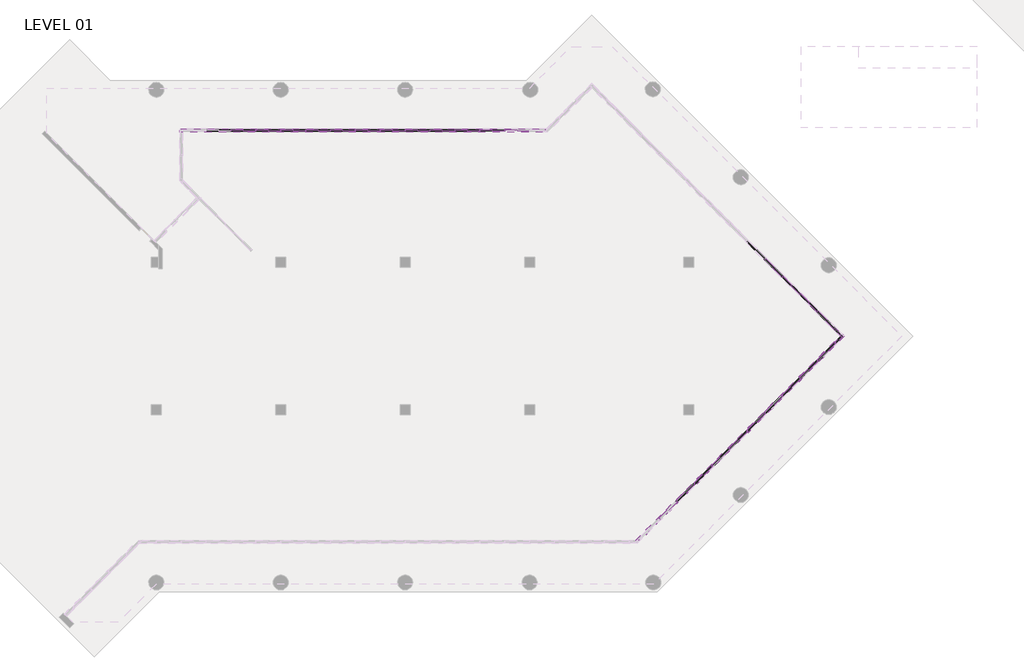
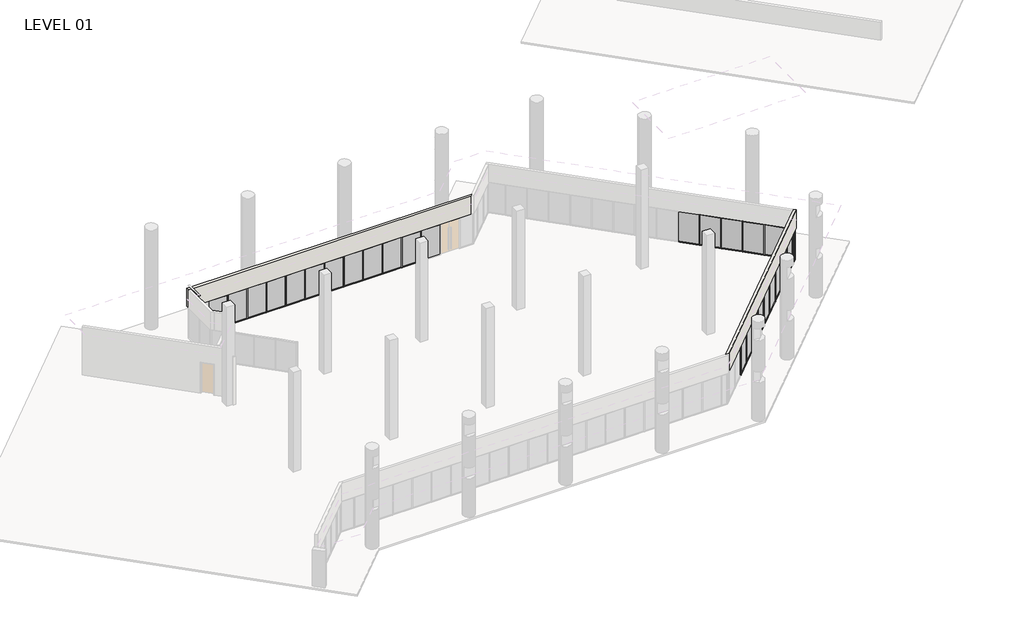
# One storey, part 7 of 24: 83 members, 28 plates, 2 walls.
"""IFC4 building model written with IfcOpenShell, lengths in millimetres."""

from ifc_helpers import new_model, si_unit, origin, place, context, project, spatial, faceted_brep, transform, mapped, element, save
from components import member_5247f267, member_79e7b9d8, member_b8d22739, member_e44af9ab, member_800970d4, plate_67294edd, plate_46a4c48d, plate_4e8ae714

model = new_model("IFC4")

# Units and contexts
model_context = context("Model", 3, world=origin())
ifc_project = project(units=[si_unit("LENGTHUNIT", "METRE", prefix="MILLI")], contexts=[model_context])

# Site, building, storey
site = spatial("IfcSite", under=ifc_project)
building = spatial("IfcBuilding", under=site)
storey = spatial("IfcBuildingStorey", under=building, Name="LEVEL 01", Elevation=0.0)

# Members
placement = place(None, origin())
member_shape = member_5247f267(model_context)
element("IfcMember", 1, ObjectType="Rectangular Mullion : 2\" x 4.5\" rectangular", at=placement, inside=storey, context=model_context, shape_type="MappedRepresentation", body=[
    mapped(member_shape, transform((50294.6517945, 390.679164, 0.0), x_axis=(0.0, 0.0, -1.0), y_axis=(0.7071067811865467, -0.7071067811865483, 0.0), z_axis=(-0.7071067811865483, -0.7071067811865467, 0.0))),
])
element("IfcMember", 2, ObjectType="Rectangular Mullion : 2\" x 4.5\" rectangular", at=placement, inside=storey, context=model_context, shape_type="MappedRepresentation", body=[
    mapped(member_shape, transform((52449.9132635, 2545.9406331, 0.0), x_axis=(0.0, 0.0, -1.0), y_axis=(0.707106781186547, -0.707106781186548, 0.0), z_axis=(-0.707106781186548, -0.707106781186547, 0.0))),
])
element("IfcMember", 3, ObjectType="Rectangular Mullion : 2\" x 4.5\" rectangular", at=placement, inside=storey, context=model_context, shape_type="MappedRepresentation", body=[
    mapped(member_shape, transform((53527.5439981, 3623.5713676, 0.0), x_axis=(0.0, 0.0, -1.0), y_axis=(0.7071067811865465, -0.7071067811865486, 0.0), z_axis=(-0.7071067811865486, -0.7071067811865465, 0.0))),
])
element("IfcMember", 4, ObjectType="Rectangular Mullion : 2\" x 4.5\" rectangular", at=placement, inside=storey, context=model_context, shape_type="MappedRepresentation", body=[
    mapped(member_shape, transform((54605.1747326, 4701.2021021, 0.0), x_axis=(0.0, 0.0, -1.0), y_axis=(0.707106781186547, -0.707106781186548, 0.0), z_axis=(-0.707106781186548, -0.707106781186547, 0.0))),
])
element("IfcMember", 5, ObjectType="Rectangular Mullion : 2\" x 4.5\" rectangular", at=placement, inside=storey, context=model_context, shape_type="MappedRepresentation", body=[
    mapped(member_shape, transform((56760.4362017, 6856.4635712, 0.0), x_axis=(0.0, 0.0, -1.0), y_axis=(0.7071067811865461, -0.7071067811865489, 0.0), z_axis=(-0.7071067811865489, -0.7071067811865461, 0.0))),
])
element("IfcMember", 6, ObjectType="Rectangular Mullion : 2\" x 4.5\" rectangular", at=placement, inside=storey, context=model_context, shape_type="MappedRepresentation", body=[
    mapped(member_shape, transform((57838.0669362, 7934.0943057, 0.0), x_axis=(0.0, 0.0, -1.0), y_axis=(0.7071067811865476, -0.7071067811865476, 0.0), z_axis=(-0.7071067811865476, -0.7071067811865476, 0.0))),
])
element("IfcMember", 7, ObjectType="Rectangular Mullion : 2\" x 4.5\" rectangular", at=placement, inside=storey, context=model_context, shape_type="MappedRepresentation", body=[
    mapped(member_shape, transform((58879.5979736, 12012.4904011, 0.0), x_axis=(0.0, 0.0, -1.0), y_axis=(0.707106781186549, 0.7071067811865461, 0.0), z_axis=(0.707106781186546, -0.7071067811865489, 0.0))),
])
element("IfcMember", 8, ObjectType="Rectangular Mullion : 2\" x 4.5\" rectangular", at=placement, inside=storey, context=model_context, shape_type="MappedRepresentation", body=[
    mapped(member_shape, transform((56724.3365045, 14167.7518702, 0.0), x_axis=(0.0, 0.0, -1.0), y_axis=(0.7071067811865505, 0.7071067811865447, 0.0), z_axis=(0.7071067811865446, -0.7071067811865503, 0.0))),
])
element("IfcMember", 9, ObjectType="Rectangular Mullion : 2\" x 4.5\" rectangular", at=placement, inside=storey, context=model_context, shape_type="MappedRepresentation", body=[
    mapped(member_shape, transform((58915.6976707, 9011.7250402, 0.0), x_axis=(0.0, 0.0, -1.0), y_axis=(0.7071067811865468, -0.7071067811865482, 0.0), z_axis=(-0.7071067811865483, -0.7071067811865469, 0.0))),
])
element("IfcMember", 10, ObjectType="Rectangular Mullion : 2\" x 4.5\" rectangular", at=placement, inside=storey, context=model_context, shape_type="MappedRepresentation", body=[
    mapped(member_shape, transform((59957.2287081, 10934.8596666, 0.0), x_axis=(0.0, 0.0, -1.0), y_axis=(0.7071067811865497, 0.7071067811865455, 0.0), z_axis=(0.7071067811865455, -0.7071067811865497, 0.0))),
])
element("IfcMember", 11, ObjectType="Rectangular Mullion : 2\" x 4.5\" rectangular", at=placement, inside=storey, context=model_context, shape_type="MappedRepresentation", body=[
    mapped(member_shape, transform((55682.8054671, 5778.8328366, 0.0), x_axis=(0.0, 0.0, -1.0), y_axis=(0.7071067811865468, -0.7071067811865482, 0.0), z_axis=(-0.7071067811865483, -0.7071067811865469, 0.0))),
])
element("IfcMember", 12, ObjectType="Rectangular Mullion : 2\" x 4.5\" rectangular", at=placement, inside=storey, context=model_context, shape_type="MappedRepresentation", body=[
    mapped(member_shape, transform((51372.282529, 1468.3098985, 0.0), x_axis=(0.0, 0.0, -1.0), y_axis=(0.7071067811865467, -0.7071067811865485, 0.0), z_axis=(-0.7071067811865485, -0.7071067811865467, 0.0))),
])
element("IfcMember", 13, ObjectType="Rectangular Mullion : 2\" x 4.5\" rectangular", at=placement, inside=storey, context=model_context, shape_type="MappedRepresentation", body=[
    mapped(member_shape, transform((57801.9672391, 13090.1211357, 0.0), x_axis=(0.0, 0.0, -1.0), y_axis=(0.7071067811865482, 0.7071067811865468, 0.0), z_axis=(0.7071067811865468, -0.7071067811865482, 0.0))),
])
element("IfcMember", 14, ObjectType="Rectangular Mullion : 2\" x 4.5\" rectangular", at=placement, inside=storey, context=model_context, shape_type="MappedRepresentation", body=[
    mapped(member_shape, transform((55646.70577, 15245.3826047, 0.0), x_axis=(0.0, 0.0, -1.0), y_axis=(0.7071067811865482, 0.7071067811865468, 0.0), z_axis=(0.7071067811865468, -0.7071067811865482, 0.0))),
])
element("IfcMember", 15, ObjectType="Rectangular Mullion : 2\" x 4.5\" rectangular", at=placement, inside=storey, context=model_context, shape_type="MappedRepresentation", body=[
    mapped(member_shape, transform((36658.55, 23089.2828721, 0.0), x_axis=(0.0, 0.0, -1.0), y_axis=(0.0, 1.0, 0.0), z_axis=(1.0, 0.0, 0.0))),
])
element("IfcMember", 16, ObjectType="Rectangular Mullion : 2\" x 4.5\" rectangular", at=placement, inside=storey, context=model_context, shape_type="MappedRepresentation", body=[
    mapped(member_shape, transform((33610.55, 23089.2828721, 0.0), x_axis=(0.0, 0.0, -1.0), y_axis=(0.0, 1.0, 0.0), z_axis=(1.0, 0.0, 0.0))),
])
element("IfcMember", 17, ObjectType="Rectangular Mullion : 2\" x 4.5\" rectangular", at=placement, inside=storey, context=model_context, shape_type="MappedRepresentation", body=[
    mapped(member_shape, transform((32086.55, 23089.2828721, 0.0), x_axis=(0.0, 0.0, -1.0), y_axis=(0.0, 1.0, 0.0), z_axis=(1.0, 0.0, 0.0))),
])
element("IfcMember", 18, ObjectType="Rectangular Mullion : 2\" x 4.5\" rectangular", at=placement, inside=storey, context=model_context, shape_type="MappedRepresentation", body=[
    mapped(member_shape, transform((29038.55, 23089.2828721, 0.0), x_axis=(0.0, 0.0, -1.0), y_axis=(0.0, 1.0, 0.0), z_axis=(1.0, 0.0, 0.0))),
])
element("IfcMember", 19, ObjectType="Rectangular Mullion : 2\" x 4.5\" rectangular", at=placement, inside=storey, context=model_context, shape_type="MappedRepresentation", body=[
    mapped(member_shape, transform((25990.55, 23089.2828721, 0.0), x_axis=(0.0, 0.0, -1.0), y_axis=(0.0, 1.0, 0.0), z_axis=(1.0, 0.0, 0.0))),
])
element("IfcMember", 20, ObjectType="Rectangular Mullion : 2\" x 4.5\" rectangular", at=placement, inside=storey, context=model_context, shape_type="MappedRepresentation", body=[
    mapped(member_shape, transform((24466.55, 23089.2828721, 0.0), x_axis=(0.0, 0.0, -1.0), y_axis=(0.0, 1.0, 0.0), z_axis=(1.0, 0.0, 0.0))),
])
element("IfcMember", 21, ObjectType="Rectangular Mullion : 2\" x 4.5\" rectangular", at=placement, inside=storey, context=model_context, shape_type="MappedRepresentation", body=[
    mapped(member_shape, transform((35134.55, 23089.2828721, 0.0), x_axis=(0.0, 0.0, -1.0), y_axis=(0.0, 1.0, 0.0), z_axis=(1.0, 0.0, 0.0))),
])
element("IfcMember", 22, ObjectType="Rectangular Mullion : 2\" x 4.5\" rectangular", at=placement, inside=storey, context=model_context, shape_type="MappedRepresentation", body=[
    mapped(member_shape, transform((38182.55, 23089.2828721, 0.0), x_axis=(0.0, 0.0, -1.0), y_axis=(0.0, 1.0, 0.0), z_axis=(1.0, 0.0, 0.0))),
])
element("IfcMember", 23, ObjectType="Rectangular Mullion : 2\" x 4.5\" rectangular", at=placement, inside=storey, context=model_context, shape_type="MappedRepresentation", body=[
    mapped(member_shape, transform((27514.55, 23089.2828721, 0.0), x_axis=(0.0, 0.0, -1.0), y_axis=(0.0, 1.0, 0.0), z_axis=(1.0, 0.0, 0.0))),
])
element("IfcMember", 24, ObjectType="Rectangular Mullion : 2\" x 4.5\" rectangular", at=placement, inside=storey, context=model_context, shape_type="MappedRepresentation", body=[
    mapped(member_shape, transform((30562.55, 23089.2828721, 0.0), x_axis=(0.0, 0.0, -1.0), y_axis=(0.0, 1.0, 0.0), z_axis=(1.0, 0.0, 0.0))),
])
element("IfcMember", 25, ObjectType="Rectangular Mullion : 2\" x 4.5\" rectangular", at=placement, inside=storey, context=model_context, shape_type="MappedRepresentation", body=[
    mapped(member_shape, transform((22942.55, 23089.2828721, 0.0), x_axis=(0.0, 0.0, -1.0), y_axis=(0.0, 1.0, 0.0), z_axis=(1.0, 0.0, 0.0))),
])
element("IfcMember", 26, ObjectType="Rectangular Mullion : 2\" x 4.5\" rectangular", at=placement, inside=storey, context=model_context, shape_type="MappedRepresentation", body=[
    mapped(member_shape, transform((50258.73077, 354.7581395, 2590.8), x_axis=(0.0, 0.0, 1.0), y_axis=(0.7071067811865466, -0.7071067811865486, 0.0), z_axis=(0.7071067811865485, 0.7071067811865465, 0.0))),
])
element("IfcMember", 27, ObjectType="Rectangular Mullion : 2\" x 4.5\" rectangular", at=placement, inside=storey, context=model_context, shape_type="MappedRepresentation", body=[
    mapped(member_shape, transform((52413.9922391, 2510.0196086, 2590.8), x_axis=(0.0, 0.0, 1.0), y_axis=(0.7071067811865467, -0.7071067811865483, 0.0), z_axis=(0.7071067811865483, 0.7071067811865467, 0.0))),
])
element("IfcMember", 28, ObjectType="Rectangular Mullion : 2\" x 4.5\" rectangular", at=placement, inside=storey, context=model_context, shape_type="MappedRepresentation", body=[
    mapped(member_shape, transform((53491.6229736, 3587.6503431, 2590.8), x_axis=(0.0, 0.0, 1.0), y_axis=(0.7071067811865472, -0.7071067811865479, 0.0), z_axis=(0.7071067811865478, 0.7071067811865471, 0.0))),
])
element("IfcMember", 29, ObjectType="Rectangular Mullion : 2\" x 4.5\" rectangular", at=placement, inside=storey, context=model_context, shape_type="MappedRepresentation", body=[
    mapped(member_shape, transform((54569.2537081, 4665.2810776, 2590.8), x_axis=(0.0, 0.0, 1.0), y_axis=(0.7071067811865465, -0.7071067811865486, 0.0), z_axis=(0.7071067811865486, 0.7071067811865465, 0.0))),
])
element("IfcMember", 30, ObjectType="Rectangular Mullion : 2\" x 4.5\" rectangular", at=placement, inside=storey, context=model_context, shape_type="MappedRepresentation", body=[
    mapped(member_shape, transform((56724.5151772, 6820.5425467, 2590.8), x_axis=(0.0, 0.0, 1.0), y_axis=(0.7071067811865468, -0.7071067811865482, 0.0), z_axis=(0.7071067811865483, 0.7071067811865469, 0.0))),
])
element("IfcMember", 31, ObjectType="Rectangular Mullion : 2\" x 4.5\" rectangular", at=placement, inside=storey, context=model_context, shape_type="MappedRepresentation", body=[
    mapped(member_shape, transform((57802.1459117, 7898.1732812, 2590.8), x_axis=(0.0, 0.0, 1.0), y_axis=(0.7071067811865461, -0.7071067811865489, 0.0), z_axis=(0.7071067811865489, 0.7071067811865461, 0.0))),
])
element("IfcMember", 32, ObjectType="Rectangular Mullion : 2\" x 4.5\" rectangular", at=placement, inside=storey, context=model_context, shape_type="MappedRepresentation", body=[
    mapped(member_shape, transform((58915.5189981, 11976.5693766, 2590.8), x_axis=(0.0, 0.0, 1.0), y_axis=(0.7071067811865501, 0.7071067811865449, 0.0), z_axis=(-0.7071067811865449, 0.7071067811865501, 0.0))),
])
element("IfcMember", 33, ObjectType="Rectangular Mullion : 2\" x 4.5\" rectangular", at=placement, inside=storey, context=model_context, shape_type="MappedRepresentation", body=[
    mapped(member_shape, transform((56760.257529, 14131.8308457, 2590.8), x_axis=(0.0, 0.0, 1.0), y_axis=(0.7071067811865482, 0.7071067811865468, 0.0), z_axis=(-0.7071067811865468, 0.7071067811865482, 0.0))),
])
element("IfcMember", 34, ObjectType="Rectangular Mullion : 2\" x 4.5\" rectangular", at=placement, inside=storey, context=model_context, shape_type="MappedRepresentation", body=[
    mapped(member_shape, transform((58879.7766462, 8975.8040157, 2590.8), x_axis=(0.0, 0.0, 1.0), y_axis=(0.7071067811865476, -0.7071067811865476, 0.0), z_axis=(0.7071067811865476, 0.7071067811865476, 0.0))),
])
element("IfcMember", 35, ObjectType="Rectangular Mullion : 2\" x 4.5\" rectangular", at=placement, inside=storey, context=model_context, shape_type="MappedRepresentation", body=[
    mapped(member_shape, transform((55646.8844426, 5742.9118122, 2590.8), x_axis=(0.0, 0.0, 1.0), y_axis=(0.707106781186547, -0.707106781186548, 0.0), z_axis=(0.707106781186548, 0.707106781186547, 0.0))),
])
element("IfcMember", 36, ObjectType="Rectangular Mullion : 2\" x 4.5\" rectangular", at=placement, inside=storey, context=model_context, shape_type="MappedRepresentation", body=[
    mapped(member_shape, transform((51336.3615045, 1432.388874, 2590.8), x_axis=(0.0, 0.0, 1.0), y_axis=(0.707106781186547, -0.7071067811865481, 0.0), z_axis=(0.707106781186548, 0.7071067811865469, 0.0))),
])
element("IfcMember", 37, ObjectType="Rectangular Mullion : 2\" x 4.5\" rectangular", at=placement, inside=storey, context=model_context, shape_type="MappedRepresentation", body=[
    mapped(member_shape, transform((59957.4073808, 10053.4347503, 2590.8), x_axis=(0.0, 0.0, 1.0), y_axis=(0.7071067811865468, -0.7071067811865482, 0.0), z_axis=(0.7071067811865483, 0.7071067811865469, 0.0))),
])
element("IfcMember", 38, ObjectType="Rectangular Mullion : 2\" x 4.5\" rectangular", at=placement, inside=storey, context=model_context, shape_type="MappedRepresentation", body=[
    mapped(member_shape, transform((57837.8882635, 13054.2001112, 2590.8), x_axis=(0.0, 0.0, 1.0), y_axis=(0.7071067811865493, 0.7071067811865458, 0.0), z_axis=(-0.7071067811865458, 0.7071067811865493, 0.0))),
])
element("IfcMember", 39, ObjectType="Rectangular Mullion : 2\" x 4.5\" rectangular", at=placement, inside=storey, context=model_context, shape_type="MappedRepresentation", body=[
    mapped(member_shape, transform((55682.6267945, 15209.4615802, 2590.8), x_axis=(0.0, 0.0, 1.0), y_axis=(0.7071067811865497, 0.7071067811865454, 0.0), z_axis=(-0.7071067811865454, 0.7071067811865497, 0.0))),
])
element("IfcMember", 40, ObjectType="Rectangular Mullion : 2\" x 4.5\" rectangular", at=placement, inside=storey, context=model_context, shape_type="MappedRepresentation", body=[
    mapped(member_shape, transform((36709.35, 23089.2828721, 2590.8), x_axis=(0.0, 0.0, 1.0), y_axis=(0.0, 1.0, 0.0), z_axis=(-1.0, 0.0, 0.0))),
])
element("IfcMember", 41, ObjectType="Rectangular Mullion : 2\" x 4.5\" rectangular", at=placement, inside=storey, context=model_context, shape_type="MappedRepresentation", body=[
    mapped(member_shape, transform((33661.35, 23089.2828721, 2590.8), x_axis=(0.0, 0.0, 1.0), y_axis=(0.0, 1.0, 0.0), z_axis=(-1.0, 0.0, 0.0))),
])
element("IfcMember", 42, ObjectType="Rectangular Mullion : 2\" x 4.5\" rectangular", at=placement, inside=storey, context=model_context, shape_type="MappedRepresentation", body=[
    mapped(member_shape, transform((32137.35, 23089.2828721, 2590.8), x_axis=(0.0, 0.0, 1.0), y_axis=(0.0, 1.0, 0.0), z_axis=(-1.0, 0.0, 0.0))),
])
element("IfcMember", 43, ObjectType="Rectangular Mullion : 2\" x 4.5\" rectangular", at=placement, inside=storey, context=model_context, shape_type="MappedRepresentation", body=[
    mapped(member_shape, transform((29089.35, 23089.2828721, 2590.8), x_axis=(0.0, 0.0, 1.0), y_axis=(0.0, 1.0, 0.0), z_axis=(-1.0, 0.0, 0.0))),
])
element("IfcMember", 44, ObjectType="Rectangular Mullion : 2\" x 4.5\" rectangular", at=placement, inside=storey, context=model_context, shape_type="MappedRepresentation", body=[
    mapped(member_shape, transform((26041.35, 23089.2828721, 2590.8), x_axis=(0.0, 0.0, 1.0), y_axis=(0.0, 1.0, 0.0), z_axis=(-1.0, 0.0, 0.0))),
])
element("IfcMember", 45, ObjectType="Rectangular Mullion : 2\" x 4.5\" rectangular", at=placement, inside=storey, context=model_context, shape_type="MappedRepresentation", body=[
    mapped(member_shape, transform((24517.35, 23089.2828721, 2590.8), x_axis=(0.0, 0.0, 1.0), y_axis=(0.0, 1.0, 0.0), z_axis=(-1.0, 0.0, 0.0))),
])
element("IfcMember", 46, ObjectType="Rectangular Mullion : 2\" x 4.5\" rectangular", at=placement, inside=storey, context=model_context, shape_type="MappedRepresentation", body=[
    mapped(member_shape, transform((35185.35, 23089.2828721, 2590.8), x_axis=(0.0, 0.0, 1.0), y_axis=(0.0, 1.0, 0.0), z_axis=(-1.0, 0.0, 0.0))),
])
element("IfcMember", 47, ObjectType="Rectangular Mullion : 2\" x 4.5\" rectangular", at=placement, inside=storey, context=model_context, shape_type="MappedRepresentation", body=[
    mapped(member_shape, transform((38233.35, 23089.2828721, 2590.8), x_axis=(0.0, 0.0, 1.0), y_axis=(0.0, 1.0, 0.0), z_axis=(-1.0, 0.0, 0.0))),
])
element("IfcMember", 48, ObjectType="Rectangular Mullion : 2\" x 4.5\" rectangular", at=placement, inside=storey, context=model_context, shape_type="MappedRepresentation", body=[
    mapped(member_shape, transform((39757.35, 23089.2828721, 2590.8), x_axis=(0.0, 0.0, 1.0), y_axis=(0.0, 1.0, 0.0), z_axis=(-1.0, 0.0, 0.0))),
])
element("IfcMember", 49, ObjectType="Rectangular Mullion : 2\" x 4.5\" rectangular", at=placement, inside=storey, context=model_context, shape_type="MappedRepresentation", body=[
    mapped(member_shape, transform((27565.35, 23089.2828721, 2590.8), x_axis=(0.0, 0.0, 1.0), y_axis=(0.0, 1.0, 0.0), z_axis=(-1.0, 0.0, 0.0))),
])
element("IfcMember", 50, ObjectType="Rectangular Mullion : 2\" x 4.5\" rectangular", at=placement, inside=storey, context=model_context, shape_type="MappedRepresentation", body=[
    mapped(member_shape, transform((30613.35, 23089.2828721, 2590.8), x_axis=(0.0, 0.0, 1.0), y_axis=(0.0, 1.0, 0.0), z_axis=(-1.0, 0.0, 0.0))),
])
element("IfcMember", 51, ObjectType="Rectangular Mullion : 2\" x 4.5\" rectangular", at=placement, inside=storey, context=model_context, shape_type="MappedRepresentation", body=[
    mapped(member_shape, transform((22993.35, 23089.2828721, 2590.8), x_axis=(0.0, 0.0, 1.0), y_axis=(0.0, 1.0, 0.0), z_axis=(-1.0, 0.0, 0.0))),
])
member_2_shape = member_79e7b9d8(model_context)
element("IfcMember", 52, ObjectType="Rectangular Mullion : 2\" x 4.5\" rectangular", at=placement, inside=storey, context=model_context, shape_type="MappedRepresentation", body=[
    mapped(member_2_shape, transform((60362.1094781, 10458.1368476, 2590.8), x_axis=(0.0, 0.0, 1.0), y_axis=(0.7071067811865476, -0.7071067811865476, 0.0), z_axis=(0.7071067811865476, 0.7071067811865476, 0.0))),
])
element("IfcMember", 53, ObjectType="Rectangular Mullion : 2\" x 4.5\" rectangular", at=placement, inside=storey, context=model_context, shape_type="MappedRepresentation", body=[
    mapped(member_2_shape, transform((59993.3284052, 10089.3557748, 0.0), x_axis=(0.0, 0.0, -1.0), y_axis=(0.7071067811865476, -0.7071067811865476, 0.0), z_axis=(-0.7071067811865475, -0.7071067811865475, 0.0))),
])
member_3_shape = member_b8d22739(model_context)
element("IfcMember", 54, ObjectType="Rectangular Mullion : 2\" x 4.5\" rectangular", at=placement, inside=storey, context=model_context, shape_type="MappedRepresentation", body=[
    mapped(member_3_shape, transform((60362.1094781, 10529.9788966, 0.0), x_axis=(0.0, 0.0, -1.0), y_axis=(0.7071067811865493, 0.7071067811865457, 0.0), z_axis=(0.7071067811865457, -0.7071067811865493, 0.0))),
])
element("IfcMember", 55, ObjectType="Rectangular Mullion : 2\" x 4.5\" rectangular", at=placement, inside=storey, context=model_context, shape_type="MappedRepresentation", body=[
    mapped(member_3_shape, transform((59993.1497326, 10898.9386421, 2590.8), x_axis=(0.0, 0.0, 1.0), y_axis=(0.7071067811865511, 0.7071067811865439, 0.0), z_axis=(-0.7071067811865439, 0.7071067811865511, 0.0))),
])
member_4_shape = member_e44af9ab(model_context)
element("IfcMember", 56, ObjectType="Rectangular Mullion : 2\" x 4.5\" rectangular", at=placement, inside=storey, context=model_context, shape_type="MappedRepresentation", body=[
    mapped(member_4_shape, transform((50276.6912822, 372.7186518, 0.0), x_axis=(0.7071067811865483, 0.7071067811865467, 0.0), y_axis=(0.7071067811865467, -0.7071067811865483, 0.0), z_axis=(0.0, 0.0, -1.0))),
])
element("IfcMember", 57, ObjectType="Rectangular Mullion : 2\" x 4.5\" rectangular", at=placement, inside=storey, context=model_context, shape_type="MappedRepresentation", body=[
    mapped(member_4_shape, transform((52431.9527513, 2527.9801208, 0.0), x_axis=(0.7071067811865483, 0.7071067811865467, 0.0), y_axis=(0.7071067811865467, -0.7071067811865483, 0.0), z_axis=(0.0, 0.0, -1.0))),
])
element("IfcMember", 58, ObjectType="Rectangular Mullion : 2\" x 4.5\" rectangular", at=placement, inside=storey, context=model_context, shape_type="MappedRepresentation", body=[
    mapped(member_4_shape, transform((53509.5834858, 3605.6108553, 0.0), x_axis=(0.7071067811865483, 0.7071067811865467, 0.0), y_axis=(0.7071067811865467, -0.7071067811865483, 0.0), z_axis=(0.0, 0.0, -1.0))),
])
element("IfcMember", 59, ObjectType="Rectangular Mullion : 2\" x 4.5\" rectangular", at=placement, inside=storey, context=model_context, shape_type="MappedRepresentation", body=[
    mapped(member_4_shape, transform((54587.2142204, 4683.2415899, 0.0), x_axis=(0.7071067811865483, 0.7071067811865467, 0.0), y_axis=(0.7071067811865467, -0.7071067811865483, 0.0), z_axis=(0.0, 0.0, -1.0))),
])
element("IfcMember", 60, ObjectType="Rectangular Mullion : 2\" x 4.5\" rectangular", at=placement, inside=storey, context=model_context, shape_type="MappedRepresentation", body=[
    mapped(member_4_shape, transform((56742.4756894, 6838.5030589, 0.0), x_axis=(0.7071067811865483, 0.7071067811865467, 0.0), y_axis=(0.7071067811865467, -0.7071067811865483, 0.0), z_axis=(0.0, 0.0, -1.0))),
])
element("IfcMember", 61, ObjectType="Rectangular Mullion : 2\" x 4.5\" rectangular", at=placement, inside=storey, context=model_context, shape_type="MappedRepresentation", body=[
    mapped(member_4_shape, transform((57820.1064239, 7916.1337935, 0.0), x_axis=(0.7071067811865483, 0.7071067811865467, 0.0), y_axis=(0.7071067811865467, -0.7071067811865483, 0.0), z_axis=(0.0, 0.0, -1.0))),
])
element("IfcMember", 62, ObjectType="Rectangular Mullion : 2\" x 4.5\" rectangular", at=placement, inside=storey, context=model_context, shape_type="MappedRepresentation", body=[
    mapped(member_4_shape, transform((58897.5584858, 11994.5298889, 0.0), x_axis=(-0.7071067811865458, 0.7071067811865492, 0.0), y_axis=(0.7071067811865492, 0.7071067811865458, 0.0), z_axis=(0.0, 0.0, -1.0))),
])
element("IfcMember", 63, ObjectType="Rectangular Mullion : 2\" x 4.5\" rectangular", at=placement, inside=storey, context=model_context, shape_type="MappedRepresentation", body=[
    mapped(member_4_shape, transform((56742.2970168, 14149.7913579, 0.0), x_axis=(-0.7071067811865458, 0.7071067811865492, 0.0), y_axis=(0.7071067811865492, 0.7071067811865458, 0.0), z_axis=(0.0, 0.0, -1.0))),
])
element("IfcMember", 64, ObjectType="Rectangular Mullion : 2\" x 4.5\" rectangular", at=placement, inside=storey, context=model_context, shape_type="MappedRepresentation", body=[
    mapped(member_4_shape, transform((58897.7371585, 8993.764528, 0.0), x_axis=(0.7071067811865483, 0.7071067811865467, 0.0), y_axis=(0.7071067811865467, -0.7071067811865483, 0.0), z_axis=(0.0, 0.0, -1.0))),
])
element("IfcMember", 65, ObjectType="Rectangular Mullion : 2\" x 4.5\" rectangular", at=placement, inside=storey, context=model_context, shape_type="MappedRepresentation", body=[
    mapped(member_4_shape, transform((59975.1892204, 10916.8991544, 0.0), x_axis=(-0.7071067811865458, 0.7071067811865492, 0.0), y_axis=(0.7071067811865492, 0.7071067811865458, 0.0), z_axis=(0.0, 0.0, -1.0))),
])
element("IfcMember", 66, ObjectType="Rectangular Mullion : 2\" x 4.5\" rectangular", at=placement, inside=storey, context=model_context, shape_type="MappedRepresentation", body=[
    mapped(member_4_shape, transform((55664.8449549, 5760.8723244, 0.0), x_axis=(0.7071067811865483, 0.7071067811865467, 0.0), y_axis=(0.7071067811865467, -0.7071067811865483, 0.0), z_axis=(0.0, 0.0, -1.0))),
])
element("IfcMember", 67, ObjectType="Rectangular Mullion : 2\" x 4.5\" rectangular", at=placement, inside=storey, context=model_context, shape_type="MappedRepresentation", body=[
    mapped(member_4_shape, transform((51354.3220168, 1450.3493863, 0.0), x_axis=(0.7071067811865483, 0.7071067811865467, 0.0), y_axis=(0.7071067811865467, -0.7071067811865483, 0.0), z_axis=(0.0, 0.0, -1.0))),
])
element("IfcMember", 68, ObjectType="Rectangular Mullion : 2\" x 4.5\" rectangular", at=placement, inside=storey, context=model_context, shape_type="MappedRepresentation", body=[
    mapped(member_4_shape, transform((59975.367893, 10071.3952625, 0.0), x_axis=(0.7071067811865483, 0.7071067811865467, 0.0), y_axis=(0.7071067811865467, -0.7071067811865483, 0.0), z_axis=(0.0, 0.0, -1.0))),
])
element("IfcMember", 69, ObjectType="Rectangular Mullion : 2\" x 4.5\" rectangular", at=placement, inside=storey, context=model_context, shape_type="MappedRepresentation", body=[
    mapped(member_4_shape, transform((57819.9277513, 13072.1606234, 0.0), x_axis=(-0.7071067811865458, 0.7071067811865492, 0.0), y_axis=(0.7071067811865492, 0.7071067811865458, 0.0), z_axis=(0.0, 0.0, -1.0))),
])
element("IfcMember", 70, ObjectType="Rectangular Mullion : 2\" x 4.5\" rectangular", at=placement, inside=storey, context=model_context, shape_type="MappedRepresentation", body=[
    mapped(member_4_shape, transform((55664.6662822, 15227.4220925, 0.0), x_axis=(-0.7071067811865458, 0.7071067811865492, 0.0), y_axis=(0.7071067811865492, 0.7071067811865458, 0.0), z_axis=(0.0, 0.0, -1.0))),
])
element("IfcMember", 71, ObjectType="Rectangular Mullion : 2\" x 4.5\" rectangular", at=placement, inside=storey, context=model_context, shape_type="MappedRepresentation", body=[
    mapped(member_4_shape, transform((36683.95, 23089.2828721, 0.0), x_axis=(-1.0, 0.0, 0.0), y_axis=(0.0, 1.0, 0.0), z_axis=(0.0, 0.0, -1.0))),
])
element("IfcMember", 72, ObjectType="Rectangular Mullion : 2\" x 4.5\" rectangular", at=placement, inside=storey, context=model_context, shape_type="MappedRepresentation", body=[
    mapped(member_4_shape, transform((33635.95, 23089.2828721, 0.0), x_axis=(-1.0, 0.0, 0.0), y_axis=(0.0, 1.0, 0.0), z_axis=(0.0, 0.0, -1.0))),
])
element("IfcMember", 73, ObjectType="Rectangular Mullion : 2\" x 4.5\" rectangular", at=placement, inside=storey, context=model_context, shape_type="MappedRepresentation", body=[
    mapped(member_4_shape, transform((32111.95, 23089.2828721, 0.0), x_axis=(-1.0, 0.0, 0.0), y_axis=(0.0, 1.0, 0.0), z_axis=(0.0, 0.0, -1.0))),
])
element("IfcMember", 74, ObjectType="Rectangular Mullion : 2\" x 4.5\" rectangular", at=placement, inside=storey, context=model_context, shape_type="MappedRepresentation", body=[
    mapped(member_4_shape, transform((29063.95, 23089.2828721, 0.0), x_axis=(-1.0, 0.0, 0.0), y_axis=(0.0, 1.0, 0.0), z_axis=(0.0, 0.0, -1.0))),
])
element("IfcMember", 75, ObjectType="Rectangular Mullion : 2\" x 4.5\" rectangular", at=placement, inside=storey, context=model_context, shape_type="MappedRepresentation", body=[
    mapped(member_4_shape, transform((26015.95, 23089.2828721, 0.0), x_axis=(-1.0, 0.0, 0.0), y_axis=(0.0, 1.0, 0.0), z_axis=(0.0, 0.0, -1.0))),
])
element("IfcMember", 76, ObjectType="Rectangular Mullion : 2\" x 4.5\" rectangular", at=placement, inside=storey, context=model_context, shape_type="MappedRepresentation", body=[
    mapped(member_4_shape, transform((24491.95, 23089.2828721, 0.0), x_axis=(-1.0, 0.0, 0.0), y_axis=(0.0, 1.0, 0.0), z_axis=(0.0, 0.0, -1.0))),
])
element("IfcMember", 77, ObjectType="Rectangular Mullion : 2\" x 4.5\" rectangular", at=placement, inside=storey, context=model_context, shape_type="MappedRepresentation", body=[
    mapped(member_4_shape, transform((35159.95, 23089.2828721, 0.0), x_axis=(-1.0, 0.0, 0.0), y_axis=(0.0, 1.0, 0.0), z_axis=(0.0, 0.0, -1.0))),
])
element("IfcMember", 78, ObjectType="Rectangular Mullion : 2\" x 4.5\" rectangular", at=placement, inside=storey, context=model_context, shape_type="MappedRepresentation", body=[
    mapped(member_4_shape, transform((38207.95, 23089.2828721, 0.0), x_axis=(-1.0, 0.0, 0.0), y_axis=(0.0, 1.0, 0.0), z_axis=(0.0, 0.0, -1.0))),
])
element("IfcMember", 79, ObjectType="Rectangular Mullion : 2\" x 4.5\" rectangular", at=placement, inside=storey, context=model_context, shape_type="MappedRepresentation", body=[
    mapped(member_4_shape, transform((27539.95, 23089.2828721, 0.0), x_axis=(-1.0, 0.0, 0.0), y_axis=(0.0, 1.0, 0.0), z_axis=(0.0, 0.0, -1.0))),
])
element("IfcMember", 80, ObjectType="Rectangular Mullion : 2\" x 4.5\" rectangular", at=placement, inside=storey, context=model_context, shape_type="MappedRepresentation", body=[
    mapped(member_4_shape, transform((30587.95, 23089.2828721, 0.0), x_axis=(-1.0, 0.0, 0.0), y_axis=(0.0, 1.0, 0.0), z_axis=(0.0, 0.0, -1.0))),
])
element("IfcMember", 81, ObjectType="Rectangular Mullion : 2\" x 4.5\" rectangular", at=placement, inside=storey, context=model_context, shape_type="MappedRepresentation", body=[
    mapped(member_4_shape, transform((22967.95, 23089.2828721, 0.0), x_axis=(-1.0, 0.0, 0.0), y_axis=(0.0, 1.0, 0.0), z_axis=(0.0, 0.0, -1.0))),
])
member_5_shape = member_800970d4(model_context)
element("IfcMember", 82, ObjectType="Rectangular Mullion : 2\" x 4.5\" rectangular", at=placement, inside=storey, context=model_context, shape_type="MappedRepresentation", body=[
    mapped(member_5_shape, transform((60398.0305026, 10494.0578721, 0.0), x_axis=(0.7071067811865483, 0.7071067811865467, 0.0), y_axis=(0.7071067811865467, -0.7071067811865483, 0.0), z_axis=(0.0, 0.0, -1.0))),
])
element("IfcMember", 83, ObjectType="Rectangular Mullion : 2\" x 4.5\" rectangular", at=placement, inside=storey, context=model_context, shape_type="MappedRepresentation", body=[
    mapped(member_5_shape, transform((60398.0305026, 10494.0578721, 2590.8), x_axis=(0.7071067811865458, -0.7071067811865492, 0.0), y_axis=(0.7071067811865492, 0.7071067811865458, 0.0), z_axis=(0.0, 0.0, 1.0))),
])

# Plates
plate_shape = plate_67294edd(model_context)
element("IfcPlate", 84, ObjectType="System Panel : 1/4\" Glass", at=placement, inside=storey, context=model_context, shape_type="MappedRepresentation", body=[
    mapped(plate_shape, transform((50815.5066495, 911.534019, 50.8), x_axis=(0.7071067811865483, 0.7071067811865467, 0.0), y_axis=(-0.7071067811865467, 0.7071067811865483, 0.0), z_axis=(0.0, 0.0, 1.0))),
])
element("IfcPlate", 85, ObjectType="System Panel : 1/4\" Glass", at=placement, inside=storey, context=model_context, shape_type="MappedRepresentation", body=[
    mapped(plate_shape, transform((52970.7681186, 3066.7954881, 50.8), x_axis=(0.7071067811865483, 0.7071067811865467, 0.0), y_axis=(-0.7071067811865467, 0.7071067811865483, 0.0), z_axis=(0.0, 0.0, 1.0))),
])
element("IfcPlate", 86, ObjectType="System Panel : 1/4\" Glass", at=placement, inside=storey, context=model_context, shape_type="MappedRepresentation", body=[
    mapped(plate_shape, transform((54048.3988531, 4144.4262226, 50.8), x_axis=(0.7071067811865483, 0.7071067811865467, 0.0), y_axis=(-0.7071067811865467, 0.7071067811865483, 0.0), z_axis=(0.0, 0.0, 1.0))),
])
element("IfcPlate", 87, ObjectType="System Panel : 1/4\" Glass", at=placement, inside=storey, context=model_context, shape_type="MappedRepresentation", body=[
    mapped(plate_shape, transform((55126.0295876, 5222.0569571, 50.8), x_axis=(0.7071067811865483, 0.7071067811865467, 0.0), y_axis=(-0.7071067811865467, 0.7071067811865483, 0.0), z_axis=(0.0, 0.0, 1.0))),
])
element("IfcPlate", 88, ObjectType="System Panel : 1/4\" Glass", at=placement, inside=storey, context=model_context, shape_type="MappedRepresentation", body=[
    mapped(plate_shape, transform((57281.2910567, 7377.3184262, 50.8), x_axis=(0.7071067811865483, 0.7071067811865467, 0.0), y_axis=(-0.7071067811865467, 0.7071067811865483, 0.0), z_axis=(0.0, 0.0, 1.0))),
])
element("IfcPlate", 89, ObjectType="System Panel : 1/4\" Glass", at=placement, inside=storey, context=model_context, shape_type="MappedRepresentation", body=[
    mapped(plate_shape, transform((58358.9217912, 8454.9491607, 50.8), x_axis=(0.7071067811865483, 0.7071067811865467, 0.0), y_axis=(-0.7071067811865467, 0.7071067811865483, 0.0), z_axis=(0.0, 0.0, 1.0))),
])
element("IfcPlate", 90, ObjectType="System Panel : 1/4\" Glass", at=placement, inside=storey, context=model_context, shape_type="MappedRepresentation", body=[
    mapped(plate_shape, transform((58358.7431186, 12533.3452562, 50.8), x_axis=(-0.7071067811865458, 0.7071067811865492, 0.0), y_axis=(-0.7071067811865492, -0.7071067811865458, 0.0), z_axis=(0.0, 0.0, 1.0))),
])
element("IfcPlate", 91, ObjectType="System Panel : 1/4\" Glass", at=placement, inside=storey, context=model_context, shape_type="MappedRepresentation", body=[
    mapped(plate_shape, transform((56203.4816495, 14688.6067252, 50.8), x_axis=(-0.7071067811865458, 0.7071067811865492, 0.0), y_axis=(-0.7071067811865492, -0.7071067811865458, 0.0), z_axis=(0.0, 0.0, 1.0))),
])
element("IfcPlate", 92, ObjectType="System Panel : 1/4\" Glass", at=placement, inside=storey, context=model_context, shape_type="MappedRepresentation", body=[
    mapped(plate_shape, transform((59436.5525257, 9532.5798953, 50.8), x_axis=(0.7071067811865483, 0.7071067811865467, 0.0), y_axis=(-0.7071067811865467, 0.7071067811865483, 0.0), z_axis=(0.0, 0.0, 1.0))),
])
element("IfcPlate", 93, ObjectType="System Panel : 1/4\" Glass", at=placement, inside=storey, context=model_context, shape_type="MappedRepresentation", body=[
    mapped(plate_shape, transform((59436.3738531, 11455.7145216, 50.8), x_axis=(-0.7071067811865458, 0.7071067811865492, 0.0), y_axis=(-0.7071067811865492, -0.7071067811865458, 0.0), z_axis=(0.0, 0.0, 1.0))),
])
element("IfcPlate", 94, ObjectType="System Panel : 1/4\" Glass", at=placement, inside=storey, context=model_context, shape_type="MappedRepresentation", body=[
    mapped(plate_shape, transform((56203.6603222, 6299.6876917, 50.8), x_axis=(0.7071067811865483, 0.7071067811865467, 0.0), y_axis=(-0.7071067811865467, 0.7071067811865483, 0.0), z_axis=(0.0, 0.0, 1.0))),
])
element("IfcPlate", 95, ObjectType="System Panel : 1/4\" Glass", at=placement, inside=storey, context=model_context, shape_type="MappedRepresentation", body=[
    mapped(plate_shape, transform((51893.137384, 1989.1647536, 50.8), x_axis=(0.7071067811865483, 0.7071067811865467, 0.0), y_axis=(-0.7071067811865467, 0.7071067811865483, 0.0), z_axis=(0.0, 0.0, 1.0))),
])
element("IfcPlate", 96, ObjectType="System Panel : 1/4\" Glass", at=placement, inside=storey, context=model_context, shape_type="MappedRepresentation", body=[
    mapped(plate_shape, transform((57281.112384, 13610.9759907, 50.8), x_axis=(-0.7071067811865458, 0.7071067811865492, 0.0), y_axis=(-0.7071067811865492, -0.7071067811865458, 0.0), z_axis=(0.0, 0.0, 1.0))),
])
element("IfcPlate", 97, ObjectType="System Panel : 1/4\" Glass", at=placement, inside=storey, context=model_context, shape_type="MappedRepresentation", body=[
    mapped(plate_shape, transform((55125.850915, 15766.2374597, 50.8), x_axis=(-0.7071067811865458, 0.7071067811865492, 0.0), y_axis=(-0.7071067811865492, -0.7071067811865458, 0.0), z_axis=(0.0, 0.0, 1.0))),
])
element("IfcPlate", 98, ObjectType="System Panel : 1/4\" Glass", at=placement, inside=storey, context=model_context, shape_type="MappedRepresentation", body=[
    mapped(plate_shape, transform((35921.95, 23089.2828721, 50.8), x_axis=(-1.0, 0.0, 0.0), y_axis=(0.0, -1.0, 0.0), z_axis=(0.0, 0.0, 1.0))),
])
element("IfcPlate", 99, ObjectType="System Panel : 1/4\" Glass", at=placement, inside=storey, context=model_context, shape_type="MappedRepresentation", body=[
    mapped(plate_shape, transform((32873.95, 23089.2828721, 50.8), x_axis=(-1.0, 0.0, 0.0), y_axis=(0.0, -1.0, 0.0), z_axis=(0.0, 0.0, 1.0))),
])
element("IfcPlate", 100, ObjectType="System Panel : 1/4\" Glass", at=placement, inside=storey, context=model_context, shape_type="MappedRepresentation", body=[
    mapped(plate_shape, transform((31349.95, 23089.2828721, 50.8), x_axis=(-1.0, 0.0, 0.0), y_axis=(0.0, -1.0, 0.0), z_axis=(0.0, 0.0, 1.0))),
])
element("IfcPlate", 101, ObjectType="System Panel : 1/4\" Glass", at=placement, inside=storey, context=model_context, shape_type="MappedRepresentation", body=[
    mapped(plate_shape, transform((28301.95, 23089.2828721, 50.8), x_axis=(-1.0, 0.0, 0.0), y_axis=(0.0, -1.0, 0.0), z_axis=(0.0, 0.0, 1.0))),
])
element("IfcPlate", 102, ObjectType="System Panel : 1/4\" Glass", at=placement, inside=storey, context=model_context, shape_type="MappedRepresentation", body=[
    mapped(plate_shape, transform((25253.95, 23089.2828721, 50.8), x_axis=(-1.0, 0.0, 0.0), y_axis=(0.0, -1.0, 0.0), z_axis=(0.0, 0.0, 1.0))),
])
element("IfcPlate", 103, ObjectType="System Panel : 1/4\" Glass", at=placement, inside=storey, context=model_context, shape_type="MappedRepresentation", body=[
    mapped(plate_shape, transform((23729.95, 23089.2828721, 50.8), x_axis=(-1.0, 0.0, 0.0), y_axis=(0.0, -1.0, 0.0), z_axis=(0.0, 0.0, 1.0))),
])
element("IfcPlate", 104, ObjectType="System Panel : 1/4\" Glass", at=placement, inside=storey, context=model_context, shape_type="MappedRepresentation", body=[
    mapped(plate_shape, transform((34397.95, 23089.2828721, 50.8), x_axis=(-1.0, 0.0, 0.0), y_axis=(0.0, -1.0, 0.0), z_axis=(0.0, 0.0, 1.0))),
])
element("IfcPlate", 105, ObjectType="System Panel : 1/4\" Glass", at=placement, inside=storey, context=model_context, shape_type="MappedRepresentation", body=[
    mapped(plate_shape, transform((37445.95, 23089.2828721, 50.8), x_axis=(-1.0, 0.0, 0.0), y_axis=(0.0, -1.0, 0.0), z_axis=(0.0, 0.0, 1.0))),
])
element("IfcPlate", 106, ObjectType="System Panel : 1/4\" Glass", at=placement, inside=storey, context=model_context, shape_type="MappedRepresentation", body=[
    mapped(plate_shape, transform((38969.95, 23089.2828721, 50.8), x_axis=(-1.0, 0.0, 0.0), y_axis=(0.0, -1.0, 0.0), z_axis=(0.0, 0.0, 1.0))),
])
element("IfcPlate", 107, ObjectType="System Panel : 1/4\" Glass", at=placement, inside=storey, context=model_context, shape_type="MappedRepresentation", body=[
    mapped(plate_shape, transform((26777.95, 23089.2828721, 50.8), x_axis=(-1.0, 0.0, 0.0), y_axis=(0.0, -1.0, 0.0), z_axis=(0.0, 0.0, 1.0))),
])
element("IfcPlate", 108, ObjectType="System Panel : 1/4\" Glass", at=placement, inside=storey, context=model_context, shape_type="MappedRepresentation", body=[
    mapped(plate_shape, transform((29825.95, 23089.2828721, 50.8), x_axis=(-1.0, 0.0, 0.0), y_axis=(0.0, -1.0, 0.0), z_axis=(0.0, 0.0, 1.0))),
])
element("IfcPlate", 109, ObjectType="System Panel : 1/4\" Glass", at=placement, inside=storey, context=model_context, shape_type="MappedRepresentation", body=[
    mapped(plate_shape, transform((22205.95, 23089.2828721, 50.8), x_axis=(-1.0, 0.0, 0.0), y_axis=(0.0, -1.0, 0.0), z_axis=(0.0, 0.0, 1.0))),
])
plate_2_shape = plate_46a4c48d(model_context)
element("IfcPlate", 110, ObjectType="System Panel : 1/4\" Glass", at=placement, inside=storey, context=model_context, shape_type="MappedRepresentation", body=[
    mapped(plate_2_shape, transform((60177.7189417, 10273.7463112, 50.8), x_axis=(0.7071067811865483, 0.7071067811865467, 0.0), y_axis=(-0.7071067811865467, 0.7071067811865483, 0.0), z_axis=(0.0, 0.0, 1.0))),
])
plate_3_shape = plate_4e8ae714(model_context)
element("IfcPlate", 111, ObjectType="System Panel : 1/4\" Glass", at=placement, inside=storey, context=model_context, shape_type="MappedRepresentation", body=[
    mapped(plate_3_shape, transform((60177.6296054, 10714.4587694, 50.8), x_axis=(-0.7071067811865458, 0.7071067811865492, 0.0), y_axis=(-0.7071067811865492, -0.7071067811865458, 0.0), z_axis=(0.0, 0.0, 1.0))),
])

# Walls
element("IfcWall", 112, ObjectType="8\" Existing Wall", at=placement, inside=storey, context=model_context, shape_type="Brep", body=[
    faceted_brep([(48048.0896005, -1999.5671279, 2590.8), (60541.7146005, 10494.0578721, 2590.8), (60541.7146005, 10494.0578721, 4089.4), (48048.0896005, -1999.5671279, 4089.4), (47760.7214047, -1999.5671279, 2590.8), (47760.7214047, -1999.5671279, 4089.4), (60254.3464047, 10494.0578721, 4089.4), (60398.0305026, 10637.7419701, 4089.4), (60398.0305026, 10637.7419701, 2590.8), (60254.3464047, 10494.0578721, 2590.8)], [[[0, 1, 2, 3]], [[4, 5, 6, 7, 8, 9]], [[1, 0, 4, 9, 8]], [[3, 2, 7, 6, 5]], [[0, 3, 5, 4]], [[2, 1, 8, 7]]]),
])
element("IfcWall", 113, ObjectType="8\" Existing Wall", at=placement, inside=storey, context=model_context, shape_type="Brep", body=[
    faceted_brep([(42287.0103995, 23190.8828721, 2590.8), (19818.35, 23190.8828721, 2590.8), (19818.35, 23190.8828721, 4089.4), (42287.0103995, 23190.8828721, 4089.4), (42083.8103995, 22987.6828721, 2590.8), (42083.8103995, 22987.6828721, 4089.4), (20021.55, 22987.6828721, 4089.4), (19818.35, 22987.6828721, 4089.4), (19818.35, 22987.6828721, 2590.8), (20021.55, 22987.6828721, 2590.8)], [[[0, 1, 2, 3]], [[4, 5, 6, 7, 8, 9]], [[1, 0, 4, 9, 8]], [[3, 2, 7, 6, 5]], [[0, 3, 5, 4]], [[2, 1, 8, 7]]]),
])

save(model, "model.ifc")
